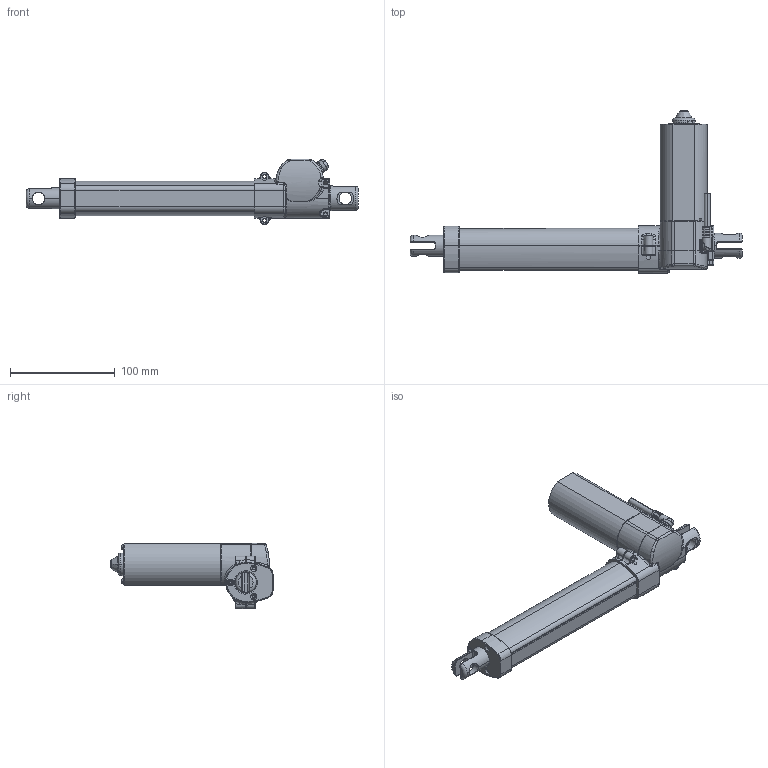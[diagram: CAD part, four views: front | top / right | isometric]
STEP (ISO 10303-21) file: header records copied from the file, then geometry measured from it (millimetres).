
FILE_DESCRIPTION((''),'2;1');
FILE_NAME('ASM0003_ASM','2025-01-17T',('USER'),(''),'PRO/ENGINEER BY PARAMETRIC TECHNOLOGY CORPORATION, 2008090','PRO/ENGINEER BY PARAMETRIC TECHNOLOGY CORPORATION, 2008090','');
FILE_SCHEMA(('CONFIG_CONTROL_DESIGN'));
Length unit declared in the file: millimetre
Products named in the file (3): PRT0001; PRT0002; ASM0003_ASM
Assembly tree (2 placements, depth 2):
  ASM0003_ASM
    PRT0001
    PRT0002
Bounding box: 316.5 x 154.5 x 62.3 mm (x, y, z)
Surface area: 169712.6 mm2 (no closed solid volume)
Topology: 0 solids, 7 shells, 1873 faces, 5001 edges, 3076 vertices
Faces by surface type: cylinder 767, plane 474, torus 265, bspline 237, sphere 97, cone 32, extrusion 1
Entity records: 70948 total; most frequent: CARTESIAN_POINT 25484, ORIENTED_EDGE 9820, DIRECTION 9544, EDGE_CURVE 4920, AXIS2_PLACEMENT_3D 3870, VERTEX_POINT 3075, CIRCLE 2230, EDGE_LOOP 1955
